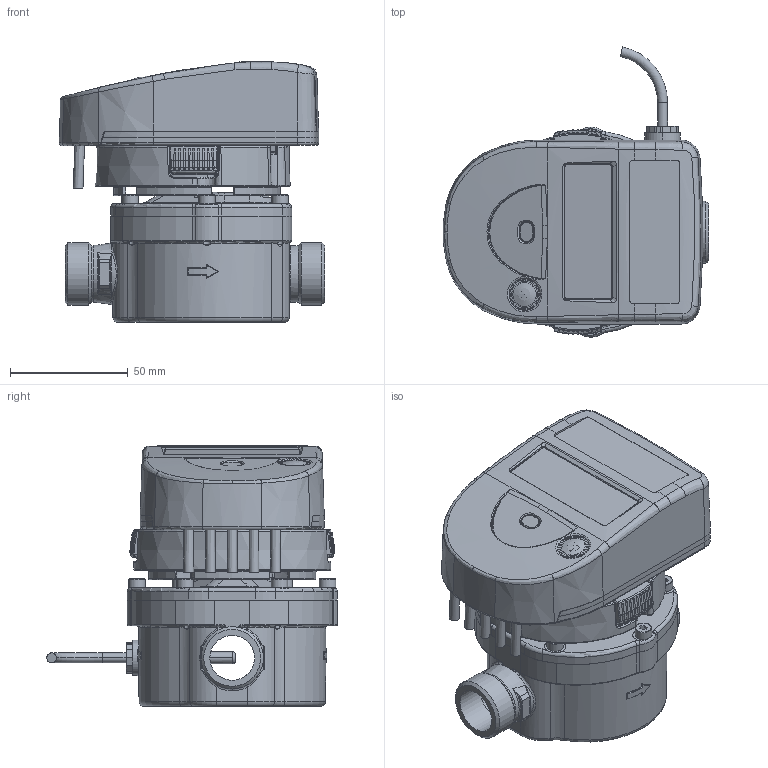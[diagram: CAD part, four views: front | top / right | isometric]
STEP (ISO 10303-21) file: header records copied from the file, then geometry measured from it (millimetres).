
FILE_DESCRIPTION(/* description */ ('Unknown'),/* implementation_level */ '2;1');
FILE_NAME(/* name */ '749 _qp1.5_110mm avec calculateur et sonde JUMO(vide) ',/* time_stamp */ '2022-09-19T08:47:16+02:00',/* author */ ('Unknown'),/* organization */ ('Unknown'),/* preprocessor_version */ 'ST-DEVELOPER v18.102',/* originating_system */ 'Solid Edge',/* authorisation */ 'Unknown');
FILE_SCHEMA (('AUTOMOTIVE_DESIGN {1 0 10303 214 3 1 1}'));
Length unit declared in the file: millimetre
Products named in the file (28): 749 _qp1; 0739P028; 0739P070; 0739P025; 0739P026; 0739P201 (schématique); Bague_P201_P202_P203; 0739P201 Câble 3 (Schématique); 0739P201_202_203 _204; 0739P201 Overmoulding Flowmeter Side Flowmeter Cable_OUTIL3D; gaine intérieure longue; gaine intérieure courte; 0739P020; 0739P021; 0739P022; 0739P024; 0749P073; 0739P023; 0739P201_202_203 _204_better waterproof; 0449P094; 0449P068; 0449P071; 00759783_vente_sonde Ø5; 00759783_AllCATPart_4_0; 00759783_AllCATPart_5_0; 00759783_AllCATPart_7_0; Flat rubber ringSLDPRT_0; cable ﾘ4.2
Assembly tree (37 placements, depth 3):
  749 _qp1
    0739P028  x2
    0739P070
    0739P025
    0739P026
    0739P201 (schématique)  x5
      Bague_P201_P202_P203
      0739P201 Câble 3 (Schématique)
      0739P201_202_203 _204
      0739P201 Overmoulding Flowmeter Side Flowmeter Cable_OUTIL3D
      gaine intérieure longue
      gaine intérieure courte
    0739P020
    0739P021
    0739P022
    0739P024
    0749P073
    0739P023
    0739P201_202_203 _204_better waterproof
    0449P094  x6
    0449P068
    0449P071
    00759783_vente_sonde Ø5
      00759783_AllCATPart_4_0
      00759783_AllCATPart_5_0
      00759783_AllCATPart_7_0
      Flat rubber ringSLDPRT_0
      cable ﾘ4.2
Bounding box: 112.46 x 123.07 x 110.38 mm (x, y, z)
Volume: 226765.7 mm3; surface area: 182309.9 mm2
Topology: 55 solids, 55 shells, 4455 faces, 11618 edges, 7264 vertices
Faces by surface type: plane 1859, cylinder 1374, torus 615, cone 389, bspline 162, sphere 56
Full cylindrical faces by diameter (mm): 0.5 x6, 1 x6, 2 x1, 2.013 x2, 2.05 x2, 2.4 x2, 2.5 x2, 2.6 x2, 2.7 x6, 2.742 x1, 3.1 x1, 3.3 x6, 4 x7, 4.1 x16, 4.4 x6, 4.5 x10, 4.9 x5, 5 x2, 5.2 x1, 6 x2, 6.5 x6, 7 x6, 7.4 x1, 8.5 x4, 9.15 x1, 9.7 x1, 11.7 x1, 12 x1, 15 x1, 19 x2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
Entity records: 140849 total; most frequent: CARTESIAN_POINT 37975, ORIENTED_EDGE 19526, DIRECTION 18049, EDGE_CURVE 9763, AXIS2_PLACEMENT_3D 6981, VERTEX_POINT 6190, FACE_BOUND 4157, EDGE_LOOP 4148
